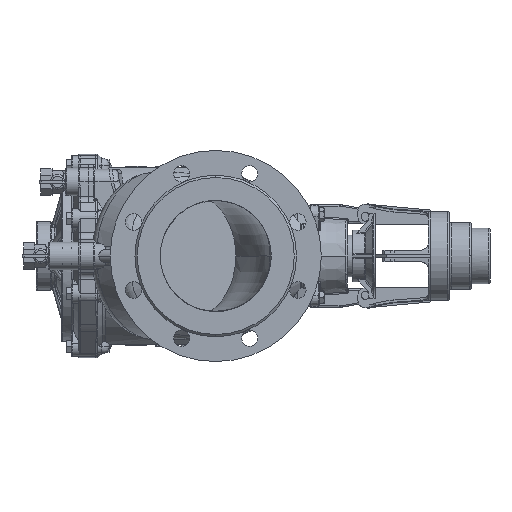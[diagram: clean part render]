
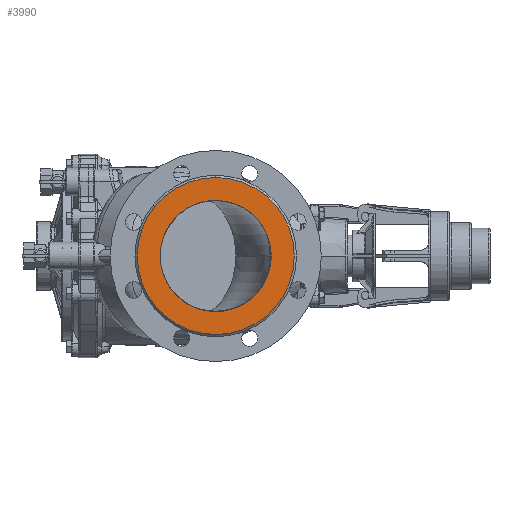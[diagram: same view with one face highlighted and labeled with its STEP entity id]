
A CAD part, left-side view. The second image highlights one B-rep face of the part: STEP entity #3990.
In plain terms, the highlighted planar face has unit normal (-1, 0, 0).
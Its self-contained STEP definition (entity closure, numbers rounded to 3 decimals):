
#3302 = EDGE_CURVE ( 'NONE', #94550, #94548, #38596, .T. ) ;
#3767 = EDGE_CURVE ( 'NONE', #94915, #95042, #41937, .T. ) ;
#3990 = ADVANCED_FACE ( 'NONE', ( #44929, #44919 ), #44927, .F. ) ;
#3991 = EDGE_LOOP ( 'NONE', ( #3994, #3997 ) ) ;
#3994 = ORIENTED_EDGE ( 'NONE', *, *, #3767, .F. ) ;
#3997 = ORIENTED_EDGE ( 'NONE', *, *, #94913, .F. ) ;
#4001 = EDGE_LOOP ( 'NONE', ( #4005, #4122 ) ) ;
#4005 = ORIENTED_EDGE ( 'NONE', *, *, #3302, .T. ) ;
#4122 = ORIENTED_EDGE ( 'NONE', *, *, #94546, .T. ) ;
#38570 = DIRECTION ( 'NONE',  ( 0., 0., 1. ) ) ;
#38572 = DIRECTION ( 'NONE',  ( -1., 0., 0. ) ) ;
#38593 = CARTESIAN_POINT ( 'NONE',  ( -260., -172., 0. ) ) ;
#38594 = AXIS2_PLACEMENT_3D ( 'NONE', #38593, #38572, #38570 ) ;
#38596 = CIRCLE ( 'NONE', #38594, 106. ) ;
#41930 = DIRECTION ( 'NONE',  ( 0., 0., 1. ) ) ;
#41932 = DIRECTION ( 'NONE',  ( -1., 0., 0. ) ) ;
#41934 = CARTESIAN_POINT ( 'NONE',  ( -260., -172., 0. ) ) ;
#41935 = AXIS2_PLACEMENT_3D ( 'NONE', #41934, #41932, #41930 ) ;
#41937 = CIRCLE ( 'NONE', #41935, 75. ) ;
#44575 = DIRECTION ( 'NONE',  ( 0., 0., -1. ) ) ;
#44578 = DIRECTION ( 'NONE',  ( 1., 0., 0. ) ) ;
#44688 = CARTESIAN_POINT ( 'NONE',  ( -260., -66., 0. ) ) ;
#44689 = AXIS2_PLACEMENT_3D ( 'NONE', #44688, #44578, #44575 ) ;
#44919 = FACE_OUTER_BOUND ( 'NONE', #4001, .T. ) ;
#44927 = PLANE ( 'NONE',  #44689 ) ;
#44929 = FACE_BOUND ( 'NONE', #3991, .T. ) ;
#73042 = CARTESIAN_POINT ( 'NONE',  ( -260., -172., -106. ) ) ;
#73043 = CARTESIAN_POINT ( 'NONE',  ( -260., -172., 106. ) ) ;
#73044 = DIRECTION ( 'NONE',  ( 0., 0., 1. ) ) ;
#73045 = DIRECTION ( 'NONE',  ( -1., 0., 0. ) ) ;
#73046 = CARTESIAN_POINT ( 'NONE',  ( -260., -172., 0. ) ) ;
#73047 = AXIS2_PLACEMENT_3D ( 'NONE', #73046, #73045, #73044 ) ;
#73048 = CIRCLE ( 'NONE', #73047, 106. ) ;
#73996 = CARTESIAN_POINT ( 'NONE',  ( -260., -172., 75. ) ) ;
#73998 = DIRECTION ( 'NONE',  ( 0., 0., 1. ) ) ;
#73999 = DIRECTION ( 'NONE',  ( -1., 0., 0. ) ) ;
#74000 = CARTESIAN_POINT ( 'NONE',  ( -260., -172., 0. ) ) ;
#74001 = AXIS2_PLACEMENT_3D ( 'NONE', #74000, #73999, #73998 ) ;
#74003 = CIRCLE ( 'NONE', #74001, 75. ) ;
#74631 = CARTESIAN_POINT ( 'NONE',  ( -260., -172., -75. ) ) ;
#94546 = EDGE_CURVE ( 'NONE', #94548, #94550, #73048, .T. ) ;
#94548 = VERTEX_POINT ( 'NONE', #73043 ) ;
#94550 = VERTEX_POINT ( 'NONE', #73042 ) ;
#94913 = EDGE_CURVE ( 'NONE', #95042, #94915, #74003, .T. ) ;
#94915 = VERTEX_POINT ( 'NONE', #73996 ) ;
#95042 = VERTEX_POINT ( 'NONE', #74631 ) ;
